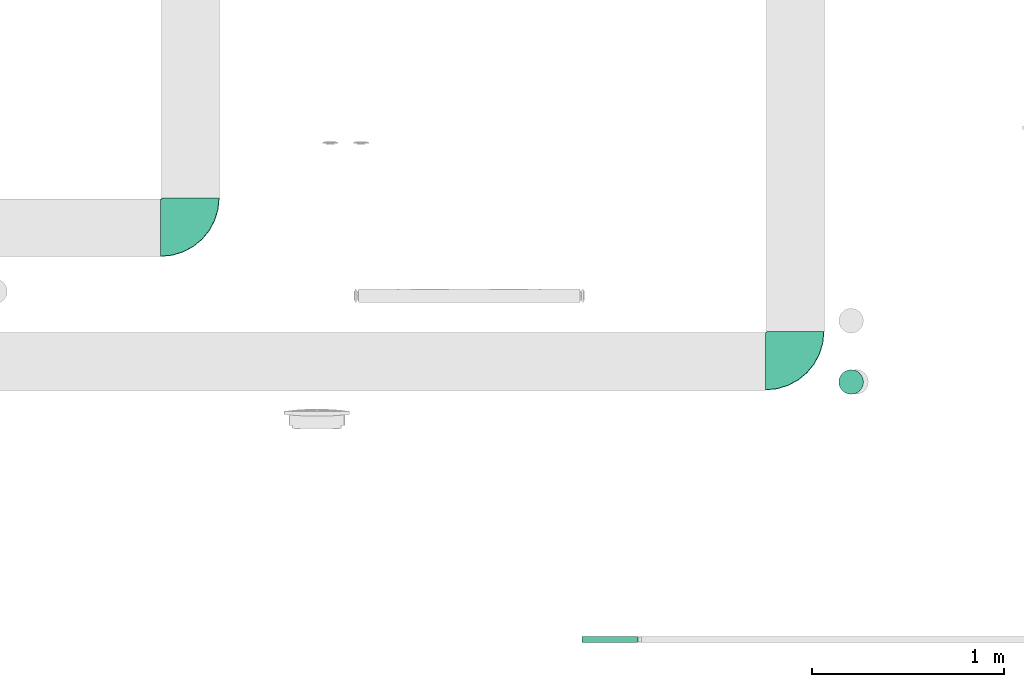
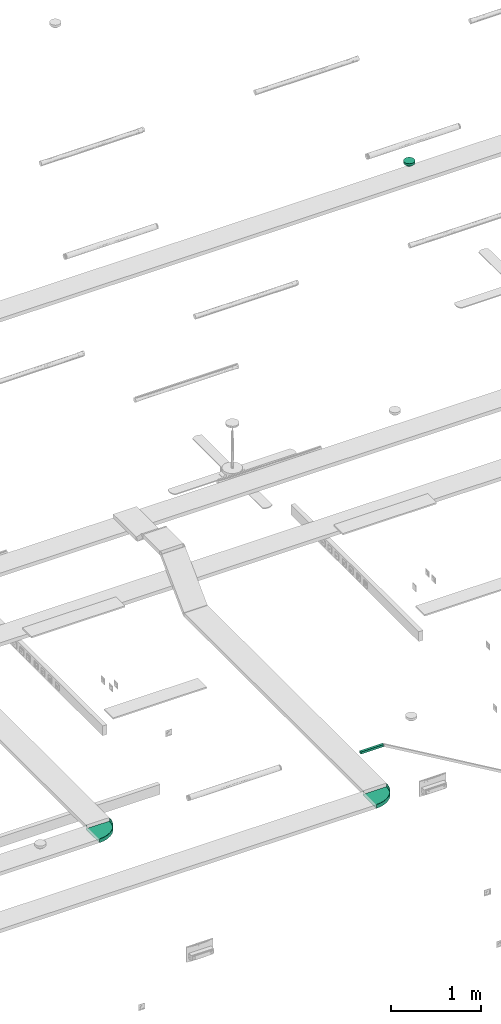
# One storey, part 84 of 153: 2 flow fittings, 1 flow segment, 1 flow terminal.
"""IFC2X3 building model written with IfcOpenShell, lengths in metres."""

from ifc_helpers import new_model, entity, si_unit, converted_unit, derived_unit, direction, frame, origin, origin_2d_with_axis, place, context, subcontext, project, spatial, rectangle, extrude, faceted_brep, source, transform, mapped, type_object, type_shapes, element, save


model = new_model("IFC2X3")

# Units and contexts
model_context = context("Model", 3, precision=1e-05, world=origin(), true_north=direction((6.12303176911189e-17, 1.0)))
body_context = subcontext(model_context, "Body", "Model", "MODEL_VIEW")
ifc_project = project(units=[si_unit("LENGTHUNIT", "METRE"), si_unit("AREAUNIT", "SQUARE_METRE"), si_unit("VOLUMEUNIT", "CUBIC_METRE"), converted_unit("PLANEANGLEUNIT", "DEGREE", entity("IfcRatioMeasure", 0.0174532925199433), si_unit("PLANEANGLEUNIT", "RADIAN"), dimensions=[0, 0, 0, 0, 0, 0, 0]), si_unit("MASSUNIT", "GRAM", prefix="KILO"), derived_unit("MASSDENSITYUNIT", [(si_unit("MASSUNIT", "GRAM", prefix="KILO"), 1), (si_unit("LENGTHUNIT", "METRE"), -3)]), si_unit("TIMEUNIT", "SECOND"), si_unit("FREQUENCYUNIT", "HERTZ"), si_unit("THERMODYNAMICTEMPERATUREUNIT", "DEGREE_CELSIUS"), derived_unit("THERMALTRANSMITTANCEUNIT", [(si_unit("MASSUNIT", "GRAM", prefix="KILO"), 1), (si_unit("THERMODYNAMICTEMPERATUREUNIT", "KELVIN"), -1), (si_unit("TIMEUNIT", "SECOND"), -3)]), derived_unit("VOLUMETRICFLOWRATEUNIT", [(si_unit("LENGTHUNIT", "METRE"), 3), (si_unit("TIMEUNIT", "SECOND"), -1)]), si_unit("ELECTRICCURRENTUNIT", "AMPERE"), si_unit("ELECTRICVOLTAGEUNIT", "VOLT"), si_unit("POWERUNIT", "WATT"), si_unit("FORCEUNIT", "NEWTON"), si_unit("ILLUMINANCEUNIT", "LUX"), si_unit("LUMINOUSFLUXUNIT", "LUMEN"), si_unit("LUMINOUSINTENSITYUNIT", "CANDELA"), derived_unit("USERDEFINED", [(si_unit("MASSUNIT", "GRAM", prefix="KILO"), -1), (si_unit("LENGTHUNIT", "METRE"), -2), (si_unit("TIMEUNIT", "SECOND"), 3), (si_unit("LUMINOUSFLUXUNIT", "LUMEN"), 1)]), derived_unit("LINEARVELOCITYUNIT", [(si_unit("LENGTHUNIT", "METRE"), 1), (si_unit("TIMEUNIT", "SECOND"), -1)]), si_unit("PRESSUREUNIT", "PASCAL"), derived_unit("USERDEFINED", [(si_unit("LENGTHUNIT", "METRE"), -2), (si_unit("MASSUNIT", "GRAM", prefix="KILO"), 1), (si_unit("TIMEUNIT", "SECOND"), -2)])], contexts=[model_context])

# Site, building, storey
site_placement = place(None, origin())
site = spatial("IfcSite", under=ifc_project, at=site_placement, Name="Default", CompositionType="ELEMENT")
building_placement = place(site_placement, origin())
building = spatial("IfcBuilding", under=site, at=building_placement, CompositionType="ELEMENT")
storey_placement = place(building_placement, frame((0.0, 0.0, -4.62)))
storey = spatial("IfcBuildingStorey", under=building, at=storey_placement, Name="S02", CompositionType="ELEMENT", Elevation=-4.62)

# Flow segment
cable_carrier_segment_type = type_object("IfcCableCarrierSegmentType", Name="Cable Tray with Fittings:Goulottes de câbles indéfini_Goulottes de câbles", PredefinedType="NOTDEFINED")
flow_segment_placement = place(storey_placement, origin())
element("IfcFlowSegment", 1, at=flow_segment_placement, inside=storey, type_object=cable_carrier_segment_type, Name="Cable Tray with Fittings:Goulottes de câbles indéfini_Goulottes de câbles", ObjectType="Cable Tray with Fittings:Goulottes de câbles indéfini_Goulottes de câbles", context=body_context, shape_type="SweptSolid", body=[
    extrude(rectangle(XDim=0.289548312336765, YDim=0.0300000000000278, at=origin_2d_with_axis()), frame((56.2358776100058, -195.835320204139, 5.40983114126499), z_axis=(0.0, 0.0, 1.0), x_axis=(-1.0, 0.0, 0.0)), (0.0, 0.0, 1.0), 0.0299999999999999),
])

# Flow fittings
cable_carrier_fitting_type = type_object("IfcCableCarrierFittingType", Name="E_Bend_Horizontal_CA_Generic_MEPcontent", PredefinedType="NOTDEFINED")
shared_shape_1 = source(origin(), body_context, "Body", "Brep", [
    faceted_brep([(-0.149999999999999, 0.15507999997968, -0.025), (-0.149999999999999, 0.15507999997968, 0.025), (-0.147460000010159, 0.15507999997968, 0.025), (-0.147460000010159, 0.15507999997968, -0.02246000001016), (0.147460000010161, 0.15507999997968, -0.02246000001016), (0.147460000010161, 0.15507999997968, 0.025), (0.150000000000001, 0.15507999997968, 0.025), (0.150000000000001, 0.15507999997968, -0.025), (-0.155079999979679, -0.15, -0.025), (-0.155079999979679, -0.15, 0.025), (-0.155079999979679, -0.14746000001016, 0.025), (-0.155079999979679, -0.14746000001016, -0.02246000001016), (-0.155079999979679, 0.14746000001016, -0.02246000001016), (-0.155079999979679, 0.14746000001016, 0.025), (-0.155079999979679, 0.15, 0.025), (-0.155079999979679, 0.15, -0.025), (-0.15148789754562, 0.151487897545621, -0.025), (-0.15148789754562, 0.151487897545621, 0.025), (-0.14969184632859, 0.149691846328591, 0.025), (-0.0955618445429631, -0.144137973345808, 0.025), (-0.0383309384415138, -0.12677716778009, 0.025), (0.0144133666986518, -0.0985847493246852, 0.025), (0.0606441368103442, -0.0606441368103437, 0.025), (0.0985847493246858, -0.0144133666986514, 0.025), (0.126777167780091, 0.0383309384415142, 0.025), (0.144137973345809, 0.0955618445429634, 0.025), (0.141646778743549, 0.0960573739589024, 0.025), (0.124430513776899, 0.0393029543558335, 0.025), (0.0964728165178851, -0.013002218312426, 0.025), (0.0588480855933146, -0.058848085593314, 0.025), (0.0130022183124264, -0.0964728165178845, 0.025), (-0.0393029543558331, -0.124430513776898, 0.025), (-0.096057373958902, -0.141646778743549, 0.025), (-0.14969184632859, 0.149691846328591, -0.02246000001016), (-0.0960573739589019, -0.141646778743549, -0.02246000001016), (-0.0393029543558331, -0.124430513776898, -0.02246000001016), (0.0130022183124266, -0.0964728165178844, -0.02246000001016), (0.0588480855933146, -0.0588480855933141, -0.02246000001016), (0.096472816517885, -0.0130022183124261, -0.02246000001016), (0.124430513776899, 0.0393029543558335, -0.02246000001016), (0.141646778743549, 0.0960573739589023, -0.02246000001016), (-0.0955618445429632, -0.144137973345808, -0.025), (-0.0383309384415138, -0.12677716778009, -0.025), (0.0144133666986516, -0.0985847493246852, -0.025), (0.0606441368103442, -0.0606441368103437, -0.025), (0.0985847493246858, -0.0144133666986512, -0.025), (0.126777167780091, 0.0383309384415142, -0.025), (0.144137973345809, 0.0955618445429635, -0.025)], [[[0, 1, 2, 3, 4, 5, 6, 7]], [[8, 9, 10, 11, 12, 13, 14, 15]], [[16, 15, 14, 17]], [[17, 1, 0, 16]], [[13, 18, 2, 1, 17, 14]], [[10, 9, 19, 20, 21, 22, 23, 24, 25, 6, 5, 26, 27, 28, 29, 30, 31, 32]], [[13, 12, 33, 18]], [[18, 33, 3, 2]], [[12, 11, 34, 35, 36, 37, 38, 39, 40, 4, 3, 33]], [[34, 11, 10, 32]], [[31, 35, 34, 32]], [[35, 31, 30, 36]], [[29, 37, 36, 30]], [[39, 38, 28, 27]], [[40, 39, 27, 26]], [[4, 40, 26, 5]], [[29, 28, 38, 37]], [[19, 9, 8, 41]], [[41, 42, 20, 19]], [[43, 21, 20, 42]], [[44, 22, 21, 43]], [[23, 45, 46, 24]], [[24, 46, 47, 25]], [[25, 47, 7, 6]], [[44, 45, 23, 22]], [[41, 8, 15, 16, 0, 7, 47, 46, 45, 44, 43, 42]]]),
    faceted_brep([(0.150000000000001, 0.155079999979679, -0.025), (0.150000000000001, 0.155079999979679, 0.025), (0.147460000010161, 0.155079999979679, 0.025), (0.147460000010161, 0.155079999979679, -0.02246000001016), (-0.147460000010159, 0.15507999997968, -0.02246000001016), (-0.147460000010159, 0.15507999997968, 0.025), (-0.149999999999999, 0.15507999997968, 0.025), (-0.149999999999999, 0.15507999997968, -0.025), (0.150000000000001, 0.156079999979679, -0.025), (-0.149999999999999, 0.15607999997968, -0.025), (-0.149999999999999, 0.15607999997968, 0.025), (-0.147460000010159, 0.15607999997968, 0.025), (-0.147460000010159, 0.15607999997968, -0.02246000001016), (0.147460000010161, 0.156079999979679, -0.02246000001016), (0.147460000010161, 0.156079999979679, 0.025), (0.150000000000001, 0.156079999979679, 0.025)], [[[0, 1, 2, 3, 4, 5, 6, 7]], [[8, 9, 10, 11, 12, 13, 14, 15]], [[1, 0, 8, 15]], [[2, 1, 15, 14]], [[3, 2, 14, 13]], [[4, 3, 13, 12]], [[5, 4, 12, 11]], [[6, 5, 11, 10]], [[7, 6, 10, 9]], [[0, 7, 9, 8]]]),
    faceted_brep([(-0.155079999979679, 0.15, -0.025), (-0.155079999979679, 0.15, 0.025), (-0.155079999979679, 0.14746000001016, 0.025), (-0.155079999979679, 0.14746000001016, -0.02246000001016), (-0.155079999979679, -0.14746000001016, -0.02246000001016), (-0.155079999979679, -0.14746000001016, 0.025), (-0.155079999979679, -0.15, 0.025), (-0.155079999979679, -0.15, -0.025), (-0.156079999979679, 0.15, -0.025), (-0.156079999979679, -0.15, -0.025), (-0.156079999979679, -0.15, 0.025), (-0.156079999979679, -0.14746000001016, 0.025), (-0.156079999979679, -0.14746000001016, -0.02246000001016), (-0.156079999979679, 0.14746000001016, -0.02246000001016), (-0.156079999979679, 0.14746000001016, 0.025), (-0.156079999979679, 0.15, 0.025)], [[[0, 1, 2, 3, 4, 5, 6, 7]], [[8, 9, 10, 11, 12, 13, 14, 15]], [[1, 0, 8, 15]], [[2, 1, 15, 14]], [[3, 2, 14, 13]], [[4, 3, 13, 12]], [[5, 4, 12, 11]], [[6, 5, 11, 10]], [[7, 6, 10, 9]], [[0, 7, 9, 8]]]),
])
type_shapes(cable_carrier_fitting_type, [shared_shape_1])
for number, where in (
    (2, (54.0583394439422, -193.697139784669, -0.830999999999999)),
    (3, (57.2004483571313, -194.390915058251, -1.04500019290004)),
):
    element("IfcFlowFitting", number, at=place(building_placement, frame(where)), inside=storey, type_object=cable_carrier_fitting_type, Name="E_Bend_Horizontal_CA_Generic_MEPcontent:E_Bend_Horizontal_CA_Generic_MEPcontent", ObjectType="E_Bend_Horizontal_CA_Generic_MEPcontent:E_Bend_Horizontal_CA_Generic_MEPcontent", context=body_context, shape_type="MappedRepresentation", body=[
        mapped(shared_shape_1, transform((0.0, 0.0, 0.0), scale=1.0)),
    ])

# Flow terminal
light_fixture_type = type_object("IfcLightFixtureType", Name="Détecteur 360°", PredefinedType="NOTDEFINED")
shared_shape_2 = source(origin(), body_context, "Body", "Brep", [
    faceted_brep([(-0.0175153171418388, 0.0435914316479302, 0.0478512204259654), (0.0, 0.034524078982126, 0.0563702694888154), (0.0, 0.0397165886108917, 0.0531256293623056), (0.0, -0.00603476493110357, 0.0659648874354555), (0.0, 0.0, 0.0669999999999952), (-0.0194029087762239, 0.000878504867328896, 0.0644483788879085), (-0.0269980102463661, 0.0195753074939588, 0.0584711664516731), (-0.0366619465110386, 0.0127227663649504, 0.0549213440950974), (-0.0174057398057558, 0.0159851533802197, 0.0630502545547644), (-0.0276843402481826, 0.0401006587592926, 0.0459804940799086), (-0.0359767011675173, 0.0348394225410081, 0.0444249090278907), (-0.0202403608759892, 0.0335607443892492, 0.054639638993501), (-0.0256912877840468, 0.0533485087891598, 0.0299999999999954), (-0.0172617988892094, 0.0486391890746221, 0.042533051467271), (-0.0133088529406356, 0.0517577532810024, 0.0400582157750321), (-0.0462941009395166, 0.0369183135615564, 0.0299999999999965), (-0.0186245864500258, 0.0267295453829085, 0.0589100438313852), (0.0, 0.0241390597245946, 0.0628595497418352), (-0.0139070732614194, 0.0374370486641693, 0.0540817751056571), (0.0, -0.0397165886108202, 0.0531256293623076), (-0.0172618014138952, -0.0486391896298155, 0.0425330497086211), (0.0, -0.0449090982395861, 0.049880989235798), (-0.0353547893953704, -0.0284533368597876, 0.0494330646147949), (-0.0202403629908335, -0.0335607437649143, 0.054639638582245), (-0.0186245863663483, -0.0267295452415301, 0.0589100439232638), (-0.0191783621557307, -0.0150189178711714, 0.0627751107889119), (-0.0249385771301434, -0.0204731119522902, 0.0590841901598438), (0.0, -0.0120695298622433, 0.0649297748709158), (-0.0453471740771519, 0.0286501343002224, 0.0397747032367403), (-0.052010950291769, 0.0250471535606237, 0.029999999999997), (-0.0465404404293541, 0.0196510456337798, 0.0438984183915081), (-0.0365036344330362, 0.0226255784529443, 0.0516441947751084), (-0.0276843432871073, -0.0401006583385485, 0.0459804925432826), (-0.0359926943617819, -0.0451334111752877, 0.0299999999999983), (-0.0175153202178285, -0.0435914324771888, 0.0478512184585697), (0.0, 0.049890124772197, 0.0429575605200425), (0.0, 0.0545512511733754, 0.0364787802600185), (0.0, 0.0592123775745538, 0.0299999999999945), (-0.00849704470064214, 0.0572729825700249, 0.0299999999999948), (-0.0169940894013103, 0.055333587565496, 0.0299999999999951), (-0.035976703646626, -0.0348394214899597, 0.0444249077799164), (-0.0308419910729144, -0.0492409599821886, 0.0299999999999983), (-0.025691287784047, -0.0533485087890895, 0.0299999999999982), (-0.0130265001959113, -0.0514867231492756, 0.040526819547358), (0.0, -0.0498901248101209, 0.0429575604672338), (-0.0169940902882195, -0.0553335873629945, 0.029999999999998), (-0.0353547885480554, 0.0284533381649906, 0.0494330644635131), (0.0, -0.0181042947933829, 0.0638946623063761), (-0.036659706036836, 0.00328672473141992, 0.0563153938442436), (-0.0485435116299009, 0.009089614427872, 0.0452357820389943), (-0.0473669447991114, 0.00128092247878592, 0.0474310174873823), (0.0, 0.00603476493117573, 0.0659648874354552), (-0.0226425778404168, 0.0107553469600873, 0.0624973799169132), (-0.0139070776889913, -0.0374370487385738, 0.0540817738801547), (0.0, -0.0293315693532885, 0.0596149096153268), (-0.0453471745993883, -0.0286501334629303, 0.0397747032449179), (-0.0449600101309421, -0.018422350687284, 0.0461366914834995), (-0.0577277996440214, -0.0131759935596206, 0.0299999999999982), (-0.0476906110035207, -0.00670602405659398, 0.0466053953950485), (0.0, 0.0449090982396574, 0.0498809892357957), (-0.0308419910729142, 0.049240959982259, 0.0299999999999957), (-0.0359926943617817, 0.0451334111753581, 0.029999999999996), (0.0, -0.0345240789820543, 0.0563702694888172), (-0.0462941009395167, -0.0369183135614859, 0.0299999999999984), (-0.0411433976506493, -0.0410258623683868, 0.0299999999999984), (-0.0491525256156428, 0.03098273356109, 0.0299999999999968), (-0.0577277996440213, 0.0131759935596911, 0.0299999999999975), (0.0, 0.018104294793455, 0.0638946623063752), (-0.0377433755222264, -0.00448382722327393, 0.0554913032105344), (-0.0577277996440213, 0.00658799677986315, 0.0299999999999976), (-0.0577277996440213, -0.00658799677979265, 0.029999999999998), (-0.0577277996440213, 0.0, 0.0299999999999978), (-0.0385149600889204, -0.012484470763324, 0.0536578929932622), (-0.0491525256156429, -0.0309827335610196, 0.0299999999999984), (-0.0548693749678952, -0.0191115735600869, 0.0299999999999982), (0.0, -0.0241390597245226, 0.0628595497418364), (-0.0146256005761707, -0.0100436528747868, 0.0649170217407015), (-0.0271766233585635, -0.00920278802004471, 0.0609170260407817), (0.0, 0.0120695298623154, 0.0649297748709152), (-0.0520109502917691, -0.0250471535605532, 0.0299999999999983), (-0.0411433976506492, 0.0410258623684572, 0.0299999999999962), (-0.0548693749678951, 0.0191115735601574, 0.0299999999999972), (0.0, 0.0293315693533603, 0.0596149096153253), (-0.0127455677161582, -0.0563032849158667, 0.0299999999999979), (-0.00849704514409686, -0.057272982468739, 0.0299999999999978), (0.0, -0.0592123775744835, 0.0299999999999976), (0.0, -0.0545512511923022, 0.0364787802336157), (-0.0213426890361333, -0.054341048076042, 0.0299999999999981), (0.0175153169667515, -0.0435914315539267, 0.0478512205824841), (0.0194029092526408, -0.000878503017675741, 0.0644483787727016), (0.0269980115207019, -0.0195753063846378, 0.0584711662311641), (0.0366619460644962, -0.012722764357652, 0.0549213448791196), (0.0174057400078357, -0.0159851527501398, 0.0630502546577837), (0.0276843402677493, -0.0401006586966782, 0.0459804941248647), (0.0359767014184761, -0.0348394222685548, 0.0444249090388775), (0.0202403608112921, -0.0335607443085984, 0.0546396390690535), (0.0256912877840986, -0.0533485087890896, 0.0299999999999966), (0.0172617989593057, -0.0486391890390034, 0.0425330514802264), (0.0133088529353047, -0.0517577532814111, 0.0400582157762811), (0.0462941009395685, -0.0369183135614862, 0.0299999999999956), (0.00849704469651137, -0.0572729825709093, 0.0299999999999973), (0.0169940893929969, -0.0553335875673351, 0.029999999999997), (0.0308419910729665, 0.0492409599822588, 0.0299999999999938), (0.025691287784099, 0.0533485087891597, 0.0299999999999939), (0.0172617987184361, 0.0486391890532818, 0.0425330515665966), (0.0175153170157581, 0.0435914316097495, 0.0478512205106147), (0.0353547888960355, 0.0284533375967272, 0.0494330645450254), (0.0202403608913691, 0.03356074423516, 0.0546396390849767), (0.0186245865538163, 0.0267295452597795, 0.0589100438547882), (0.0191783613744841, 0.0150189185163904, 0.0627751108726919), (0.0249385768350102, 0.0204731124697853, 0.0590841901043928), (0.0520109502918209, -0.0250471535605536, 0.0299999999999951), (0.0548693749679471, -0.0191115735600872, 0.0299999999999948), (0.0577277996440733, -0.0131759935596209, 0.0299999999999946), (0.0465404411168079, -0.0196510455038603, 0.0438984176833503), (0.018624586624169, -0.0267295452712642, 0.0589100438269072), (0.0365036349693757, -0.0226255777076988, 0.0516441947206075), (0.0276843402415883, 0.0401006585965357, 0.0459804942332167), (0.0359926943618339, 0.0451334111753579, 0.0299999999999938), (0.0139070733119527, -0.0374370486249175, 0.0540817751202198), (0.0359767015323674, 0.0348394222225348, 0.044424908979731), (0.0226425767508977, -0.0107553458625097, 0.0624973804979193), (0.0130264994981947, 0.0514867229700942, 0.0405268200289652), (0.0169940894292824, 0.0553335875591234, 0.0299999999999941), (0.0353547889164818, -0.0284533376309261, 0.0494330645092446), (0.0453471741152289, -0.0286501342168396, 0.039774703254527), (0.0366597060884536, -0.00328672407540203, 0.0563153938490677), (0.0485435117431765, -0.00908961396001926, 0.0452357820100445), (0.0473669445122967, -0.00128092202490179, 0.0474310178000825), (0.0139070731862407, 0.0374370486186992, 0.0540817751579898), (0.0453471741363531, 0.0286501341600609, 0.039774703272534), (0.0449600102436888, 0.018422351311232, 0.0461366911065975), (0.0577277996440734, 0.0131759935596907, 0.0299999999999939), (0.0476906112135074, 0.00670602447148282, 0.0466053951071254), (0.0308419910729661, -0.0492409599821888, 0.0299999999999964), (0.0359926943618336, -0.0451334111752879, 0.0299999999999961), (0.0462941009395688, 0.0369183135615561, 0.0299999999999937), (0.0411433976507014, 0.041025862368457, 0.0299999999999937), (0.0491525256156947, -0.0309827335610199, 0.0299999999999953), (0.0377433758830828, 0.00448382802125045, 0.0554913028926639), (0.0577277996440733, -0.00658799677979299, 0.0299999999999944), (0.0577277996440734, 0.00658799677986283, 0.0299999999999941), (0.0577277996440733, 0.0, 0.0299999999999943), (0.0385149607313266, 0.0124844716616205, 0.0536578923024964), (0.049152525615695, 0.0309827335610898, 0.0299999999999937), (0.0548693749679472, 0.0191115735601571, 0.0299999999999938), (0.0146256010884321, 0.0100436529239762, 0.0649170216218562), (0.0271766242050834, 0.00920278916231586, 0.0609170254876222), (0.0520109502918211, 0.0250471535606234, 0.0299999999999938), (0.041143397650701, -0.0410258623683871, 0.0299999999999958), (0.0127455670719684, 0.056303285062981, 0.0299999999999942), (0.0084970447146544, 0.0572729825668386, 0.0299999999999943), (0.0213426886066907, 0.0543410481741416, 0.029999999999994), (0.0, 0.0, 0.0299999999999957)], [[[0, 1, 2]], [[3, 4, 5]], [[6, 7, 8]], [[9, 10, 11]], [[12, 13, 14]], [[9, 15, 10]], [[16, 17, 11]], [[9, 11, 18]], [[19, 20, 21]], [[22, 23, 24]], [[25, 26, 27]], [[28, 29, 30]], [[16, 31, 6]], [[32, 33, 34]], [[35, 36, 37, 38, 39]], [[22, 40, 23]], [[41, 42, 20]], [[20, 43, 21]], [[44, 43, 45]], [[19, 34, 20]], [[46, 10, 28]], [[47, 26, 24]], [[48, 49, 50]], [[51, 52, 5]], [[23, 53, 54]], [[55, 22, 56]], [[57, 56, 58]], [[2, 59, 13]], [[0, 2, 13]], [[13, 60, 0]], [[1, 0, 18]], [[61, 9, 0]], [[19, 62, 34]], [[33, 41, 34]], [[63, 64, 33, 32]], [[34, 41, 20]], [[32, 34, 53]], [[31, 28, 30]], [[15, 65, 10]], [[30, 66, 49]], [[67, 16, 6]], [[52, 8, 7]], [[7, 31, 30]], [[68, 50, 58]], [[48, 50, 68]], [[49, 69, 50]], [[70, 57, 58, 71]], [[52, 48, 5]], [[22, 26, 56]], [[68, 58, 72]], [[72, 56, 26]], [[73, 40, 55]], [[56, 74, 55]], [[24, 75, 47]], [[5, 4, 51]], [[49, 48, 7]], [[5, 76, 3]], [[77, 5, 68]], [[51, 78, 52]], [[47, 27, 26]], [[25, 27, 76]], [[75, 24, 23]], [[22, 24, 26]], [[53, 62, 54]], [[40, 32, 23]], [[32, 40, 63]], [[73, 63, 40]], [[79, 73, 55, 74]], [[26, 25, 72]], [[22, 55, 40]], [[54, 75, 23]], [[17, 16, 67]], [[67, 8, 78]], [[11, 10, 46]], [[16, 11, 46]], [[52, 7, 48]], [[65, 29, 28]], [[9, 61, 80, 15]], [[81, 66, 30, 29]], [[65, 28, 10]], [[31, 46, 28]], [[1, 18, 82]], [[11, 17, 82]], [[49, 7, 30]], [[35, 39, 14]], [[14, 13, 59]], [[83, 84, 85, 86, 44, 45]], [[20, 42, 43]], [[43, 42, 87, 45]], [[62, 53, 34]], [[32, 53, 23]], [[82, 18, 11]], [[9, 18, 0]], [[12, 14, 39]], [[14, 59, 35]], [[61, 0, 60]], [[13, 12, 60]], [[46, 31, 16]], [[6, 31, 7]], [[69, 71, 50]], [[49, 66, 69]], [[58, 50, 71]], [[48, 68, 5]], [[77, 68, 72]], [[25, 77, 72]], [[72, 58, 56]], [[56, 57, 74]], [[77, 25, 76]], [[77, 76, 5]], [[3, 76, 27]], [[6, 8, 67]], [[8, 52, 78]], [[21, 43, 44]], [[88, 62, 19]], [[51, 4, 89]], [[90, 91, 92]], [[93, 94, 95]], [[96, 97, 98]], [[93, 99, 94]], [[44, 86, 85, 100, 101]], [[102, 103, 104]], [[2, 105, 104]], [[106, 107, 108]], [[109, 110, 78]], [[111, 112, 113, 114]], [[115, 116, 90]], [[117, 118, 105]], [[93, 95, 119]], [[106, 120, 107]], [[3, 121, 89]], [[35, 122, 123]], [[104, 122, 59]], [[115, 75, 95]], [[124, 94, 125]], [[67, 110, 108]], [[126, 127, 128]], [[2, 104, 59]], [[107, 129, 82]], [[130, 106, 131]], [[132, 131, 133]], [[19, 21, 97]], [[88, 19, 97]], [[97, 134, 88]], [[62, 88, 119]], [[135, 93, 88]], [[2, 1, 105]], [[118, 102, 105]], [[136, 137, 118, 117]], [[105, 102, 104]], [[117, 105, 129]], [[116, 125, 114]], [[99, 138, 94]], [[114, 113, 127]], [[47, 115, 90]], [[27, 92, 121]], [[91, 116, 114]], [[139, 128, 133]], [[126, 128, 139]], [[127, 140, 128]], [[141, 132, 133, 142]], [[121, 126, 89]], [[106, 110, 131]], [[139, 133, 143]], [[143, 131, 110]], [[144, 120, 130]], [[131, 145, 130]], [[108, 17, 67]], [[89, 4, 3]], [[127, 126, 91]], [[89, 146, 51]], [[147, 89, 139]], [[3, 27, 121]], [[67, 78, 110]], [[109, 78, 146]], [[17, 108, 107]], [[106, 108, 110]], [[129, 1, 82]], [[120, 117, 107]], [[117, 120, 136]], [[144, 136, 120]], [[148, 144, 130, 145]], [[110, 109, 143]], [[106, 130, 120]], [[82, 17, 107]], [[75, 115, 47]], [[47, 92, 27]], [[95, 94, 124]], [[115, 95, 124]], [[121, 91, 126]], [[138, 111, 125]], [[93, 135, 149, 99]], [[125, 111, 114]], [[138, 125, 94]], [[116, 124, 125]], [[62, 119, 54]], [[95, 75, 54]], [[127, 91, 114]], [[44, 101, 98]], [[98, 97, 21]], [[150, 151, 37, 36, 35, 123]], [[104, 103, 122]], [[122, 103, 152, 123]], [[1, 129, 105]], [[117, 129, 107]], [[54, 119, 95]], [[93, 119, 88]], [[96, 98, 101]], [[98, 21, 44]], [[135, 88, 134]], [[97, 96, 134]], [[124, 116, 115]], [[90, 116, 91]], [[140, 142, 128]], [[127, 113, 140]], [[133, 128, 142]], [[126, 139, 89]], [[147, 139, 143]], [[109, 147, 143]], [[143, 133, 131]], [[131, 132, 145]], [[147, 109, 146]], [[147, 146, 89]], [[51, 146, 78]], [[121, 92, 91]], [[90, 92, 47]], [[59, 122, 35]], [[153, 42, 41]], [[153, 41, 33]], [[153, 33, 64]], [[153, 64, 63]], [[153, 63, 73]], [[153, 73, 79]], [[153, 79, 74]], [[153, 74, 57]], [[153, 57, 70]], [[153, 87, 42]], [[153, 45, 87]], [[153, 83, 45]], [[153, 84, 83]], [[153, 85, 84]], [[153, 70, 71]], [[153, 71, 69]], [[153, 69, 66]], [[153, 66, 81]], [[153, 81, 29]], [[153, 29, 65]], [[153, 65, 15]], [[153, 15, 80]], [[153, 80, 61]], [[153, 61, 60]], [[153, 60, 12]], [[153, 12, 39]], [[153, 39, 38]], [[153, 38, 37]], [[153, 37, 151]], [[153, 100, 85]], [[153, 101, 100]], [[153, 96, 101]], [[153, 134, 96]], [[153, 135, 134]], [[153, 149, 135]], [[153, 99, 149]], [[153, 138, 99]], [[153, 111, 138]], [[153, 112, 111]], [[153, 113, 112]], [[153, 151, 150]], [[153, 150, 123]], [[153, 123, 152]], [[153, 152, 103]], [[153, 103, 102]], [[153, 102, 118]], [[153, 118, 137]], [[153, 137, 136]], [[153, 136, 144]], [[153, 144, 148]], [[153, 148, 145]], [[153, 145, 132]], [[153, 132, 141]], [[153, 141, 142]], [[153, 142, 140]], [[153, 140, 113]]]),
    faceted_brep([(0.0452548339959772, 0.0452548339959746, 0.0299999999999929), (0.0320000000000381, 0.0554256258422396, 0.0299999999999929), (0.0165644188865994, 0.0618192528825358, 0.029999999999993), (0.0, 0.0640000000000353, 0.0299999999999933), (-0.0165644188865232, 0.0618192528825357, 0.0299999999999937), (-0.0319999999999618, 0.0554256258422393, 0.0299999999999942), (-0.0452548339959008, 0.0452548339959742, 0.0299999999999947), (-0.0554256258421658, 0.0320000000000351, 0.0299999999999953), (-0.061819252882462, 0.0165644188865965, 0.0299999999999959), (-0.0639999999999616, 0.0, 0.0299999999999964), (-0.0618192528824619, -0.0165644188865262, 0.0299999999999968), (-0.0554256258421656, -0.0319999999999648, 0.0299999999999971), (-0.0452548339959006, -0.0452548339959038, 0.0299999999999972), (-0.0319999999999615, -0.0554256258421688, 0.0299999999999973), (-0.0165644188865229, -0.061819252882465, 0.0299999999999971), (0.0, -0.0639999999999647, 0.0299999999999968), (0.0165644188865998, -0.061819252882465, 0.0299999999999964), (0.0320000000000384, -0.0554256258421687, 0.0299999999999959), (0.0452548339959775, -0.0452548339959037, 0.0299999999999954), (0.0554256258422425, -0.0319999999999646, 0.0299999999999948), (0.0618192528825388, -0.016564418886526, 0.0299999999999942), (0.0640000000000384, 0.0, 0.0299999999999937), (0.0618192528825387, 0.016564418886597, 0.0299999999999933), (0.0554256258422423, 0.0320000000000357, 0.029999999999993), (0.0, -0.0639999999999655, 0.0), (-0.0165644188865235, -0.0618192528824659, 0.0), (-0.0319999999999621, -0.0554256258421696, 0.0), (-0.0452548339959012, -0.0452548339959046, 0.0), (-0.0554256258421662, -0.0319999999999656, 0.0), (-0.0618192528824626, -0.016564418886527, 0.0), (-0.0639999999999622, 0.0, 0.0), (-0.0618192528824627, 0.0165644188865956, 0.0), (-0.0554256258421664, 0.0320000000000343, 0.0), (-0.0452548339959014, 0.0452548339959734, 0.0), (-0.0319999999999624, 0.0554256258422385, 0.0), (-0.0165644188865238, 0.0618192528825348, 0.0), (0.0, 0.0640000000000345, 0.0), (0.0165644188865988, 0.061819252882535, 0.0), (0.0320000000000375, 0.0554256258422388, 0.0), (0.0452548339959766, 0.0452548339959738, 0.0), (0.0554256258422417, 0.0320000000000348, 0.0), (0.061819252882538, 0.0165644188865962, 0.0), (0.0640000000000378, 0.0, 0.0), (0.0618192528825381, -0.0165644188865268, 0.0), (0.0554256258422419, -0.0319999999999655, 0.0), (0.0452548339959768, -0.0452548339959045, 0.0), (0.0320000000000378, -0.0554256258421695, 0.0), (0.0165644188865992, -0.0618192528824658, 0.0)], [[[0, 1, 2, 3, 4, 5, 6, 7, 8, 9, 10, 11, 12, 13, 14, 15, 16, 17, 18, 19, 20, 21, 22, 23]], [[24, 25, 26, 27, 28, 29, 30, 31, 32, 33, 34, 35, 36, 37, 38, 39, 40, 41, 42, 43, 44, 45, 46, 47]], [[30, 9, 8, 31]], [[31, 8, 7, 32]], [[34, 33, 6, 5]], [[6, 33, 32, 7]], [[35, 34, 5, 4]], [[35, 4, 3, 36]], [[36, 3, 2, 37]], [[37, 2, 1, 38]], [[40, 39, 0, 23]], [[0, 39, 38, 1]], [[41, 40, 23, 22]], [[41, 22, 21, 42]], [[42, 21, 20, 43]], [[43, 20, 19, 44]], [[46, 45, 18, 17]], [[18, 45, 44, 19]], [[47, 46, 17, 16]], [[47, 16, 15, 24]], [[24, 15, 14, 25]], [[25, 14, 13, 26]], [[10, 9, 30, 29]], [[26, 13, 12, 27]], [[12, 11, 28, 27]], [[11, 10, 29, 28]]]),
])
type_shapes(light_fixture_type, [shared_shape_2])
flow_terminal_placement = place(storey_placement, frame((57.4897436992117, -194.498019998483, 12.129), z_axis=(0.0, 0.0, -1.0), x_axis=(1.0, 0.0, 0.0)))
element("IfcFlowTerminal", 4, at=flow_terminal_placement, inside=storey, type_object=light_fixture_type, Name="INT - Détecteur 360°:Détecteur 360°", ObjectType="INT - Détecteur 360°:Détecteur 360°", context=body_context, shape_type="MappedRepresentation", body=[
    mapped(shared_shape_2, transform((0.0, 0.0, 0.0), scale=1.0)),
])

save(model, "model.ifc")
